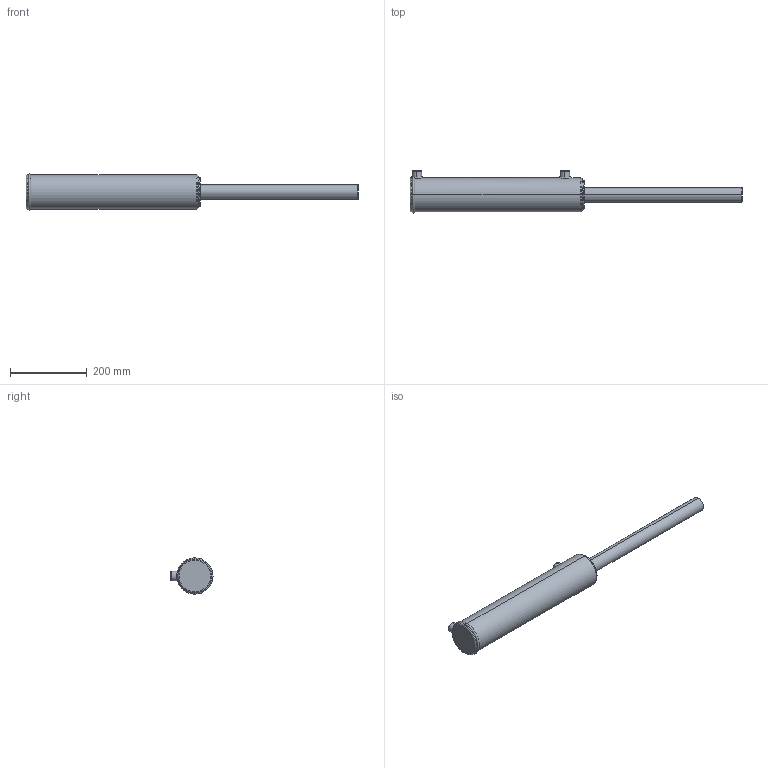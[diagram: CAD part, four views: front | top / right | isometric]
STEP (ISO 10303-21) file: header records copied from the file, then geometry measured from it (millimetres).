
FILE_DESCRIPTION (( 'STEP AP203' ), '1' );
FILE_NAME ('BL300150x355 (14) extended.STEP', '2014-11-23T22:45:20', ( '' ), ( '' ), 'SwSTEP 2.0', 'SolidWorks 2014', '' );
FILE_SCHEMA (( 'CONFIG_CONTROL_DESIGN' ));
Length unit declared in the file: millimetre
Products named in the file (3): BL body 3_3x14; Spare_3x14; BL300150x355 (14) extended
Assembly tree (2 placements, depth 2):
  BL300150x355 (14) extended
    BL body 3_3x14
    Spare_3x14
Bounding box: 868 x 109.9 x 94.9 mm (x, y, z)
Volume: 3119862.9 mm3; surface area: 237806.8 mm2
Topology: 2 solids, 2 shells, 88 faces, 205 edges, 126 vertices
Faces by surface type: cylinder 32, plane 20, torus 17, bspline 11, cone 8
Entity records: 5992 total; most frequent: CARTESIAN_POINT 3745, DIRECTION 420, ORIENTED_EDGE 402, EDGE_CURVE 201, AXIS2_PLACEMENT_3D 181, VERTEX_POINT 126, EDGE_LOOP 101, CIRCLE 99
